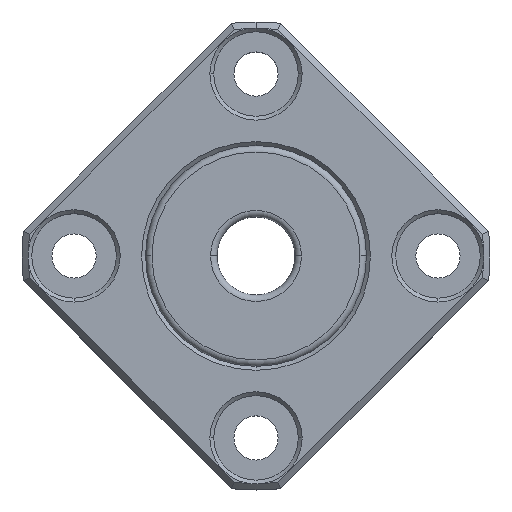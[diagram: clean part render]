
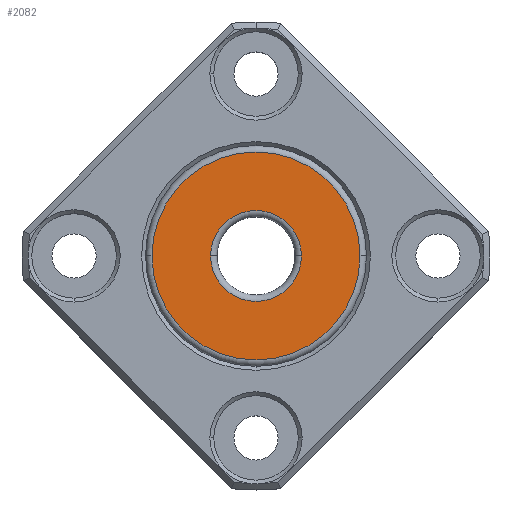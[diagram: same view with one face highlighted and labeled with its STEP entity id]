
A CAD part, top view. The second image highlights one B-rep face of the part: STEP entity #2082.
In plain terms, the highlighted planar face has unit normal (0, 0, 1).
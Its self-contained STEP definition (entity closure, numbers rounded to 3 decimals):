
#106 = CARTESIAN_POINT ( 'NONE',  ( 0., 0., 3. ) ) ;
#107 = DIRECTION ( 'NONE',  ( 0., 0., 1. ) ) ;
#108 = DIRECTION ( 'NONE',  ( 1., 0., 0. ) ) ;
#109 = CARTESIAN_POINT ( 'NONE',  ( 0., 0., 3. ) ) ;
#110 = DIRECTION ( 'NONE',  ( 0., 0., -1. ) ) ;
#111 = DIRECTION ( 'NONE',  ( 1., 0., 0. ) ) ;
#465 = CARTESIAN_POINT ( 'NONE',  ( -3.5, 0., 3. ) ) ;
#466 = CARTESIAN_POINT ( 'NONE',  ( 3.5, 0., 3. ) ) ;
#477 = CARTESIAN_POINT ( 'NONE',  ( -8., 0., 3. ) ) ;
#478 = CARTESIAN_POINT ( 'NONE',  ( 8., 0., 3. ) ) ;
#710 = CARTESIAN_POINT ( 'NONE',  ( 0., 0., 3. ) ) ;
#711 = DIRECTION ( 'NONE',  ( 0., 0., 1. ) ) ;
#712 = DIRECTION ( 'NONE',  ( 1., 0., 0. ) ) ;
#725 = CARTESIAN_POINT ( 'NONE',  ( 0., 0., 3. ) ) ;
#726 = DIRECTION ( 'NONE',  ( 0., 0., -1. ) ) ;
#727 = DIRECTION ( 'NONE',  ( 1., 0., 0. ) ) ;
#779 = VERTEX_POINT ( 'NONE', #465 ) ;
#780 = VERTEX_POINT ( 'NONE', #466 ) ;
#791 = VERTEX_POINT ( 'NONE', #477 ) ;
#792 = VERTEX_POINT ( 'NONE', #478 ) ;
#1244 = PLANE ( 'NONE',  #1671 ) ;
#1245 = CARTESIAN_POINT ( 'NONE',  ( 0., 0., 3. ) ) ;
#1246 = DIRECTION ( 'NONE',  ( 0., 0., 1. ) ) ;
#1247 = DIRECTION ( 'NONE',  ( 1., 0., 0. ) ) ;
#1453 = FACE_BOUND ( 'NONE', #1987, .T. ) ;
#1476 = AXIS2_PLACEMENT_3D ( 'NONE', #725, #726, #727 ) ;
#1511 = AXIS2_PLACEMENT_3D ( 'NONE', #106, #107, #108 ) ;
#1515 = AXIS2_PLACEMENT_3D ( 'NONE', #109, #110, #111 ) ;
#1670 = FACE_OUTER_BOUND ( 'NONE', #1988, .T. ) ;
#1671 = AXIS2_PLACEMENT_3D ( 'NONE', #1245, #1246, #1247 ) ;
#1709 = AXIS2_PLACEMENT_3D ( 'NONE', #710, #711, #712 ) ;
#1951 = ORIENTED_EDGE ( 'NONE', *, *, #2049, .T. ) ;
#1952 = ORIENTED_EDGE ( 'NONE', *, *, #2429, .T. ) ;
#1954 = ORIENTED_EDGE ( 'NONE', *, *, #2054, .T. ) ;
#1955 = ORIENTED_EDGE ( 'NONE', *, *, #2428, .T. ) ;
#1987 = EDGE_LOOP ( 'NONE', ( #1952, #1954 ) ) ;
#1988 = EDGE_LOOP ( 'NONE', ( #1951, #1955 ) ) ;
#2049 = EDGE_CURVE ( 'NONE', #792, #791, #2120, .T. ) ;
#2054 = EDGE_CURVE ( 'NONE', #779, #780, #2125, .T. ) ;
#2082 = ADVANCED_FACE ( 'NONE', ( #1453, #1670 ), #1244, .T. ) ;
#2120 = CIRCLE ( 'NONE', #1709, 8. ) ;
#2125 = CIRCLE ( 'NONE', #1476, 3.5 ) ;
#2231 = CIRCLE ( 'NONE', #1511, 8. ) ;
#2232 = CIRCLE ( 'NONE', #1515, 3.5 ) ;
#2428 = EDGE_CURVE ( 'NONE', #791, #792, #2231, .T. ) ;
#2429 = EDGE_CURVE ( 'NONE', #780, #779, #2232, .T. ) ;
